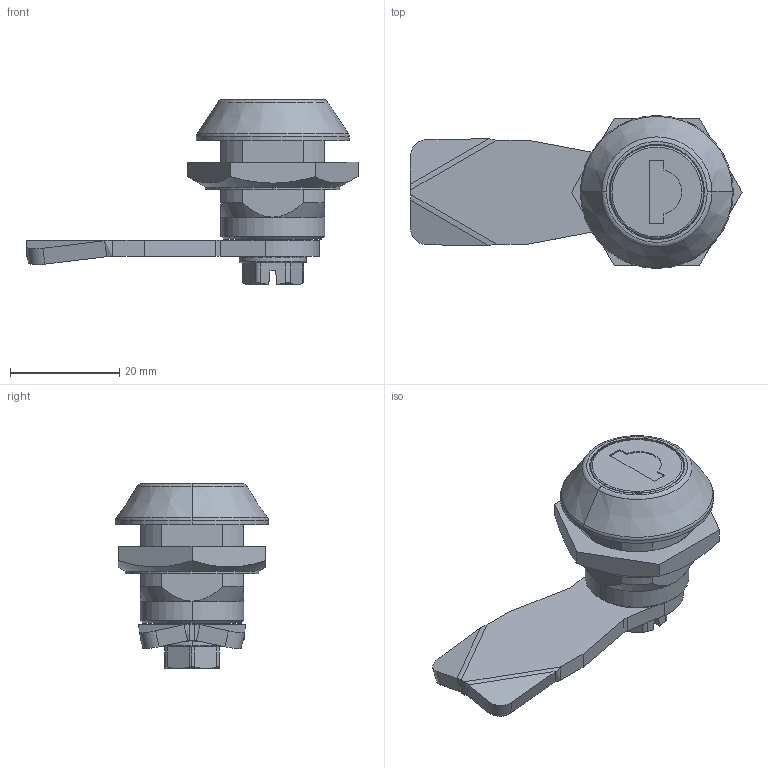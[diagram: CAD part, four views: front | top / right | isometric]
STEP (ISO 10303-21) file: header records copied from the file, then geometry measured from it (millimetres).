
FILE_DESCRIPTION (( 'STEP AP214' ), '1' );
FILE_NAME ('M22W - 90.STEP', '2016-09-08T10:03:36', ( '' ), ( '' ), 'SwSTEP 2.0', 'SolidWorks 2015', '' );
FILE_SCHEMA (( 'AUTOMOTIVE_DESIGN' ));
Length unit declared in the file: millimetre
Products named in the file (6): 2.NKR_M22 - A1; DIN 6921_M6x6; 1C.J-1XX.GH.L_#3, 1.00.18.45; Wk³adka 1333_1333 IP; 2.K.M22W.001_90; M22W - 90
Assembly tree (5 placements, depth 2):
  M22W - 90
    2.K.M22W.001_90
    Wk³adka 1333_1333 IP
    1C.J-1XX.GH.L_#3, 1.00.18.45
    DIN 6921_M6x6
    2.NKR_M22 - A1
Bounding box: 60.75 x 28 x 33.9 mm (x, y, z)
Volume: 12621.3 mm3; surface area: 9658.5 mm2
Topology: 5 solids, 5 shells, 318 faces, 811 edges, 519 vertices
Faces by surface type: plane 183, cylinder 80, cone 38, torus 13, bspline 4
Entity records: 10156 total; most frequent: CARTESIAN_POINT 2412, ORIENTED_EDGE 1618, DIRECTION 1493, EDGE_CURVE 809, AXIS2_PLACEMENT_3D 551, VERTEX_POINT 519, VECTOR 391, LINE 391
